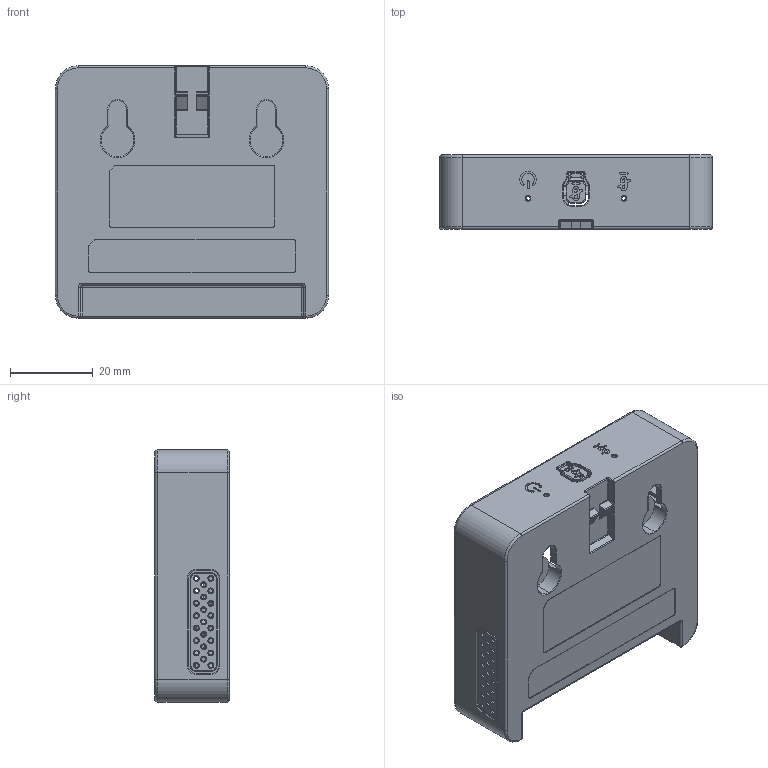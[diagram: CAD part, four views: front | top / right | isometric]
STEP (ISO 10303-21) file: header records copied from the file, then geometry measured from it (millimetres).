
FILE_DESCRIPTION (( 'STEP AP214' ), '1' );
FILE_NAME ('1_Main_Body_20211119.STEP', '2021-11-19T02:42:37', ( '' ), ( '' ), 'SwSTEP 2.0', 'SolidWorks 2019', '' );
FILE_SCHEMA (( 'AUTOMOTIVE_DESIGN' ));
Length unit declared in the file: millimetre
Products named in the file (1): 1_Main_Body_20211119
Bounding box: 66 x 18 x 61 mm (x, y, z)
Volume: 13839.5 mm3; surface area: 19164.2 mm2
Topology: 1 solids, 1 shells, 1280 faces, 3335 edges, 2043 vertices
Faces by surface type: plane 567, cylinder 458, torus 165, sphere 39, bspline 31, cone 20
Entity records: 39511 total; most frequent: CARTESIAN_POINT 7652, DIRECTION 6899, ORIENTED_EDGE 6592, EDGE_CURVE 3296, AXIS2_PLACEMENT_3D 2445, VERTEX_POINT 2043, LINE 2009, VECTOR 2009
